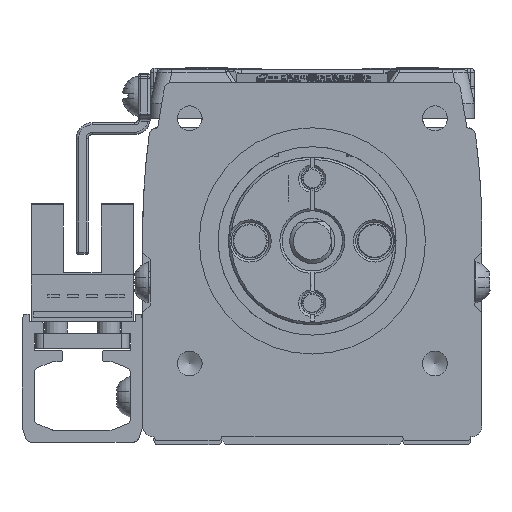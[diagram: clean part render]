
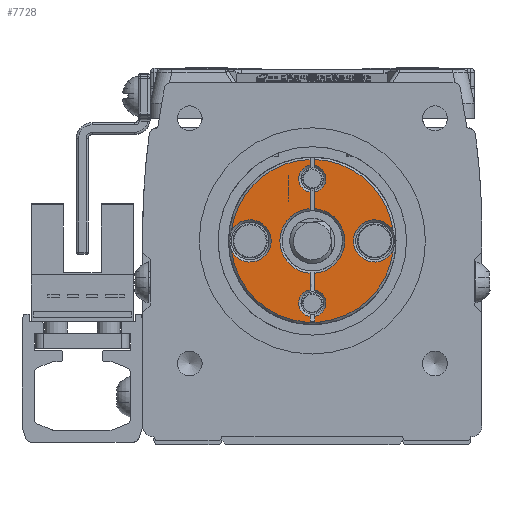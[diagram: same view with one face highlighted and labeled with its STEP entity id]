
A CAD part, left-side view. The second image highlights one B-rep face of the part: STEP entity #7728.
In plain terms, the highlighted planar face has unit normal (-1, 0, 0) as drawn and (1, 0, 0) by its records, which use the part's own axes.
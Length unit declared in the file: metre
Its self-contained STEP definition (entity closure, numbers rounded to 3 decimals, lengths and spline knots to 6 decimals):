
#7728=ADVANCED_FACE('',(#15332),#15333,.F.);
#15332=FACE_OUTER_BOUND('',#26256,.T.);
#15333=PLANE('',#26257);
#26256=EDGE_LOOP('',(#43435,#43436,#43437,#43438,#43439,#43440,#43441,#43442,#43443,#43444,#43445,#43446,#43447,#43448,#43449,#43450,#43451,#43452,#43453,#43454));
#26257=AXIS2_PLACEMENT_3D('',#43455,#43456,#43457);
#43435=ORIENTED_EDGE('',*,*,#51499,.F.);
#43436=ORIENTED_EDGE('',*,*,#53454,.T.);
#43437=ORIENTED_EDGE('',*,*,#50503,.F.);
#43438=ORIENTED_EDGE('',*,*,#55208,.F.);
#43439=ORIENTED_EDGE('',*,*,#51951,.T.);
#43440=ORIENTED_EDGE('',*,*,#51656,.T.);
#43441=ORIENTED_EDGE('',*,*,#51212,.F.);
#43442=ORIENTED_EDGE('',*,*,#55879,.F.);
#43443=ORIENTED_EDGE('',*,*,#53719,.F.);
#43444=ORIENTED_EDGE('',*,*,#55880,.T.);
#43445=ORIENTED_EDGE('',*,*,#49844,.F.);
#43446=ORIENTED_EDGE('',*,*,#51417,.F.);
#43447=ORIENTED_EDGE('',*,*,#51980,.F.);
#43448=ORIENTED_EDGE('',*,*,#51494,.F.);
#43449=ORIENTED_EDGE('',*,*,#55881,.F.);
#43450=ORIENTED_EDGE('',*,*,#51492,.F.);
#43451=ORIENTED_EDGE('',*,*,#55202,.F.);
#43452=ORIENTED_EDGE('',*,*,#51490,.F.);
#43453=ORIENTED_EDGE('',*,*,#51887,.T.);
#43454=ORIENTED_EDGE('',*,*,#55882,.F.);
#43455=CARTESIAN_POINT('',(0.0,0.0,0.));
#43456=DIRECTION('',(-1.0,0.,0.0));
#43457=DIRECTION('',(0.,-1.0,0.0));
#49844=EDGE_CURVE('',#58129,#58130,#58131,.F.);
#50503=EDGE_CURVE('',#59241,#59242,#59243,.F.);
#51212=EDGE_CURVE('',#60402,#60403,#60404,.F.);
#51417=EDGE_CURVE('',#60733,#58129,#60734,.T.);
#51490=EDGE_CURVE('',#60844,#60846,#60847,.T.);
#51492=EDGE_CURVE('',#60848,#60850,#60851,.T.);
#51494=EDGE_CURVE('',#60852,#60854,#60855,.T.);
#51499=EDGE_CURVE('',#60860,#60862,#60863,.F.);
#51656=EDGE_CURVE('',#61118,#60403,#61119,.T.);
#51887=EDGE_CURVE('',#60844,#61530,#61532,.F.);
#51951=EDGE_CURVE('',#61622,#61118,#61625,.F.);
#51980=EDGE_CURVE('',#60854,#60733,#61673,.T.);
#53454=EDGE_CURVE('',#60860,#59242,#63931,.T.);
#53719=EDGE_CURVE('',#64319,#64321,#64322,.T.);
#55202=EDGE_CURVE('',#60846,#60848,#66380,.T.);
#55208=EDGE_CURVE('',#61622,#59241,#66388,.T.);
#55879=EDGE_CURVE('',#64321,#60402,#67271,.T.);
#55880=EDGE_CURVE('',#64319,#58130,#67272,.T.);
#55881=EDGE_CURVE('',#60850,#60852,#67273,.T.);
#55882=EDGE_CURVE('',#60862,#61530,#67274,.T.);
#58129=VERTEX_POINT('',#70203);
#58130=VERTEX_POINT('',#70204);
#58131=LINE('',#70205,#70206);
#59241=VERTEX_POINT('',#71828);
#59242=VERTEX_POINT('',#71829);
#59243=LINE('',#71830,#71831);
#60402=VERTEX_POINT('',#73833);
#60403=VERTEX_POINT('',#73834);
#60404=LINE('',#73835,#73836);
#60733=VERTEX_POINT('',#74267);
#60734=CIRCLE('',#74268,0.0018);
#60844=VERTEX_POINT('',#74419);
#60846=VERTEX_POINT('',#74424);
#60847=CIRCLE('',#74425,0.0108);
#60848=VERTEX_POINT('',#74426);
#60850=VERTEX_POINT('',#74433);
#60851=CIRCLE('',#74434,0.0108);
#60852=VERTEX_POINT('',#74435);
#60854=VERTEX_POINT('',#74442);
#60855=CIRCLE('',#74443,0.0108);
#60860=VERTEX_POINT('',#74450);
#60862=VERTEX_POINT('',#74455);
#60863=LINE('',#74456,#74457);
#61118=VERTEX_POINT('',#74808);
#61119=LINE('',#74809,#74810);
#61530=VERTEX_POINT('',#75371);
#61532=LINE('',#75376,#75377);
#61622=VERTEX_POINT('',#75503);
#61625=LINE('',#75510,#75511);
#61673=LINE('',#75587,#75588);
#63931=CIRCLE('',#78856,0.0043);
#64319=VERTEX_POINT('',#79454);
#64321=VERTEX_POINT('',#79459);
#64322=LINE('',#79460,#79461);
#66380=CIRCLE('',#82687,0.0028);
#66388=CIRCLE('',#82698,0.0018);
#67271=CIRCLE('',#83967,0.0018);
#67272=CIRCLE('',#83968,0.0043);
#67273=CIRCLE('',#83969,0.0028);
#67274=CIRCLE('',#83970,0.0018);
#70203=CARTESIAN_POINT('',(0.0,0.006475,0.0003));
#70204=CARTESIAN_POINT('',(0.0,0.00429,0.0003));
#70205=CARTESIAN_POINT('',(0.0,0.0025,0.0003));
#70206=VECTOR('',#86986,1.0);
#71828=CARTESIAN_POINT('',(0.,-0.006475,-0.0003));
#71829=CARTESIAN_POINT('',(0.,-0.00429,-0.0003));
#71830=CARTESIAN_POINT('',(0.0,0.0,-0.0003));
#71831=VECTOR('',#87837,1.0);
#73833=CARTESIAN_POINT('',(0.,-0.010025,0.0003));
#73834=CARTESIAN_POINT('',(0.,-0.010642,0.0003));
#73835=CARTESIAN_POINT('',(0.0,0.0025,0.0003));
#73836=VECTOR('',#88735,1.0);
#74267=CARTESIAN_POINT('',(0.,0.010025,0.0003));
#74268=AXIS2_PLACEMENT_3D('',#89005,#89006,#89007);
#74419=CARTESIAN_POINT('',(0.,0.010796,-0.0003));
#74424=CARTESIAN_POINT('',(0.,0.001321,-0.010719));
#74425=AXIS2_PLACEMENT_3D('',#89095,#89096,#89097);
#74426=CARTESIAN_POINT('',(0.,-0.001321,-0.010719));
#74433=CARTESIAN_POINT('',(0.,-0.001321,0.010719));
#74434=AXIS2_PLACEMENT_3D('',#89098,#89099,#89100);
#74435=CARTESIAN_POINT('',(0.,0.001321,0.010719));
#74442=CARTESIAN_POINT('',(0.,0.010796,0.0003));
#74443=AXIS2_PLACEMENT_3D('',#89101,#89102,#89103);
#74450=CARTESIAN_POINT('',(0.,0.00429,-0.0003));
#74455=CARTESIAN_POINT('',(0.,0.006475,-0.0003));
#74456=CARTESIAN_POINT('',(0.0,0.0,-0.0003));
#74457=VECTOR('',#89106,1.0);
#74808=CARTESIAN_POINT('',(0.,-0.010642,-0.0003));
#74809=CARTESIAN_POINT('',(0.,-0.010642,0.0003));
#74810=VECTOR('',#89278,1.0);
#75371=CARTESIAN_POINT('',(0.,0.010025,-0.0003));
#75376=CARTESIAN_POINT('',(0.0,0.0025,-0.0003));
#75377=VECTOR('',#89631,1.0);
#75503=CARTESIAN_POINT('',(0.,-0.010025,-0.0003));
#75510=CARTESIAN_POINT('',(0.0,0.0025,-0.0003));
#75511=VECTOR('',#89690,1.0);
#75587=CARTESIAN_POINT('',(0.0,0.0,0.0003));
#75588=VECTOR('',#89720,1.0);
#78856=AXIS2_PLACEMENT_3D('',#91562,#91563,#91564);
#79454=CARTESIAN_POINT('',(0.,-0.00429,0.0003));
#79459=CARTESIAN_POINT('',(0.,-0.006475,0.0003));
#79460=CARTESIAN_POINT('',(0.0,0.0,0.0003));
#79461=VECTOR('',#91852,1.0);
#82687=AXIS2_PLACEMENT_3D('',#93475,#93476,#93477);
#82698=AXIS2_PLACEMENT_3D('',#93481,#93482,#93483);
#83967=AXIS2_PLACEMENT_3D('',#94126,#94127,#94128);
#83968=AXIS2_PLACEMENT_3D('',#94129,#94130,#94131);
#83969=AXIS2_PLACEMENT_3D('',#94132,#94133,#94134);
#83970=AXIS2_PLACEMENT_3D('',#94135,#94136,#94137);
#86986=DIRECTION('',(0.0,1.0,0.0));
#87837=DIRECTION('',(0.,-1.0,0.0));
#88735=DIRECTION('',(0.0,1.0,0.0));
#89005=CARTESIAN_POINT('',(0.0,0.00825,0.));
#89006=DIRECTION('',(1.0,0.0,0.0));
#89007=DIRECTION('',(0.0,0.0,-1.0));
#89095=CARTESIAN_POINT('',(0.,0.0,0.));
#89096=DIRECTION('',(-1.0,0.0,0.0));
#89097=DIRECTION('',(0.0,0.0,1.0));
#89098=CARTESIAN_POINT('',(0.,0.0,0.));
#89099=DIRECTION('',(-1.0,0.0,0.0));
#89100=DIRECTION('',(0.0,0.0,1.0));
#89101=CARTESIAN_POINT('',(0.,0.0,0.));
#89102=DIRECTION('',(-1.0,0.0,0.0));
#89103=DIRECTION('',(0.0,0.0,1.0));
#89106=DIRECTION('',(0.,-1.0,0.0));
#89278=DIRECTION('',(0.0,0.0,1.0));
#89631=DIRECTION('',(0.0,1.0,0.0));
#89690=DIRECTION('',(0.0,1.0,0.0));
#89720=DIRECTION('',(0.,-1.0,0.0));
#91562=CARTESIAN_POINT('',(0.,0.,0.));
#91563=DIRECTION('',(-1.0,0.,0.0));
#91564=DIRECTION('',(0.,-1.0,0.0));
#91852=DIRECTION('',(0.,-1.0,0.0));
#93475=CARTESIAN_POINT('',(0.,0.,-0.00825));
#93476=DIRECTION('',(1.0,0.,0.0));
#93477=DIRECTION('',(0.,1.0,0.0));
#93481=CARTESIAN_POINT('',(0.0,-0.00825,0.));
#93482=DIRECTION('',(1.0,0.0,0.0));
#93483=DIRECTION('',(0.0,0.0,-1.0));
#94126=CARTESIAN_POINT('',(0.0,-0.00825,0.));
#94127=DIRECTION('',(1.0,0.0,0.0));
#94128=DIRECTION('',(0.0,0.0,-1.0));
#94129=CARTESIAN_POINT('',(0.,0.,0.));
#94130=DIRECTION('',(-1.0,0.,0.0));
#94131=DIRECTION('',(0.,-1.0,0.0));
#94132=CARTESIAN_POINT('',(0.0,0.,0.00825));
#94133=DIRECTION('',(1.0,0.,0.0));
#94134=DIRECTION('',(0.,1.0,0.0));
#94135=CARTESIAN_POINT('',(0.0,0.00825,0.));
#94136=DIRECTION('',(1.0,0.0,0.0));
#94137=DIRECTION('',(0.0,0.0,-1.0));
